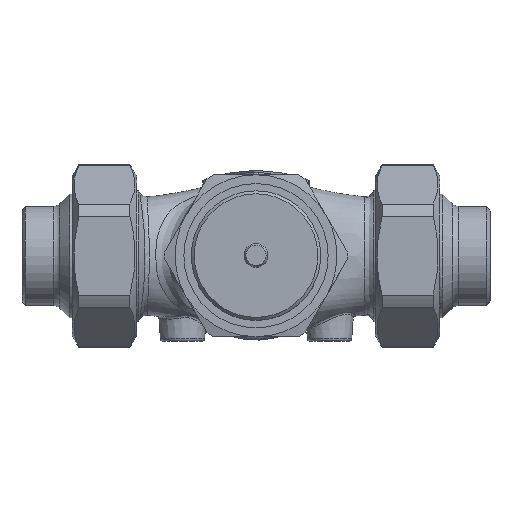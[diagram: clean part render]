
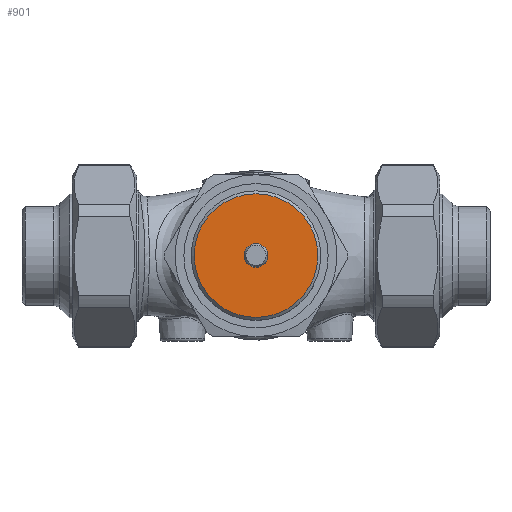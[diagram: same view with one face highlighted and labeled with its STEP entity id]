
A CAD part, top view. The second image highlights one B-rep face of the part: STEP entity #901.
In plain terms, the highlighted planar face has unit normal (0, 0, 1).
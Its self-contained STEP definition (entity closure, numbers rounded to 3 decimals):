
#363=PLANE('',#2835);
#550=CIRCLE('',#2833,4.);
#551=CIRCLE('',#2834,21.);
#707=FACE_BOUND('',#1236,.T.);
#708=FACE_BOUND('',#1237,.T.);
#901=ADVANCED_FACE('',(#707,#708),#363,.F.);
#1236=EDGE_LOOP('',(#1661));
#1237=EDGE_LOOP('',(#1662));
#1661=ORIENTED_EDGE('',*,*,#2428,.F.);
#1662=ORIENTED_EDGE('',*,*,#2429,.T.);
#2154=VERTEX_POINT('',#10904);
#2155=VERTEX_POINT('',#10906);
#2428=EDGE_CURVE('',#2154,#2154,#550,.T.);
#2429=EDGE_CURVE('',#2155,#2155,#551,.T.);
#2833=AXIS2_PLACEMENT_3D('',#10903,#3268,#3269);
#2834=AXIS2_PLACEMENT_3D('',#10905,#3270,#3271);
#2835=AXIS2_PLACEMENT_3D('',#10907,#3272,#3273);
#3268=DIRECTION('',(0.,0.,1.));
#3269=DIRECTION('',(-1.,0.,0.));
#3270=DIRECTION('',(0.,0.,1.));
#3271=DIRECTION('',(-1.,0.,0.));
#3272=DIRECTION('',(0.,0.,-1.));
#3273=DIRECTION('',(-1.,0.,0.));
#10903=CARTESIAN_POINT('',(0.,0.,80.6));
#10904=CARTESIAN_POINT('',(-4.,0.,80.6));
#10905=CARTESIAN_POINT('',(0.,0.,80.6));
#10906=CARTESIAN_POINT('',(-21.,0.,80.6));
#10907=CARTESIAN_POINT('',(0.,-11.25,80.6));
